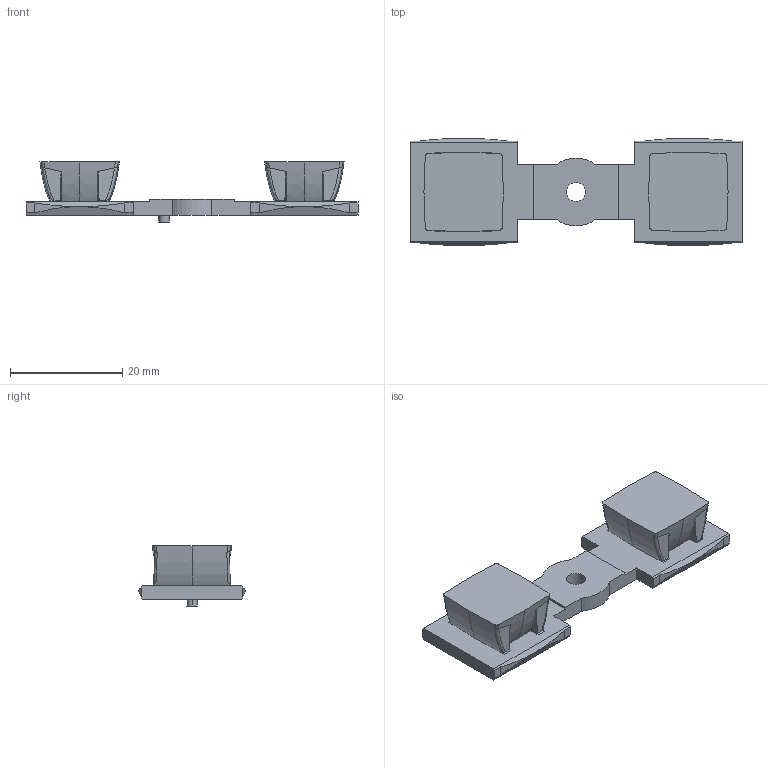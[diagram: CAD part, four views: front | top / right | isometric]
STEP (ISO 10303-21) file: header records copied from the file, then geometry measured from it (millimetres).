
FILE_DESCRIPTION(('Creo Elements/Direct Modeling STEP Export'),'2;1');
FILE_NAME('91472.stp','2023-01-13T11:51:47',(''),(''),'Creo Elements/Direct Modeling STEP processor for AP214 (Solid Model)','Creo Elements/Direct Modeling 20.1B 02-Apr-2019 (C) Parametric Technology GmbH','');
FILE_SCHEMA(('AUTOMOTIVE_DESIGN { 1 0 10303 214 1 1 1 1 }'));
Length unit declared in the file: millimetre
Products named in the file (1): 91472
Bounding box: 59.1 x 19.1 x 10.7 mm (x, y, z)
Volume: 4166.9 mm3; surface area: 3340.9 mm2
Topology: 1 solids, 1 shells, 125 faces, 355 edges, 233 vertices
Faces by surface type: plane 67, bspline 24, extrusion 16, cylinder 12, sphere 4, cone 2
Entity records: 16776 total; most frequent: CARTESIAN_POINT 12964, ORIENTED_EDGE 702, DIRECTION 420, EDGE_CURVE 351, VERTEX_POINT 233, VECTOR 204, LINE 188, EDGE_LOOP 132
